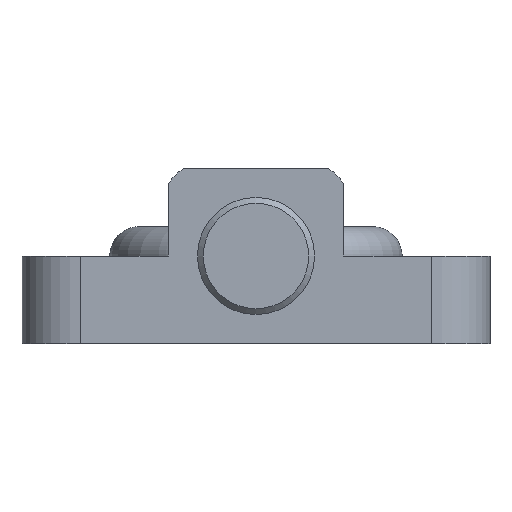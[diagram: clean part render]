
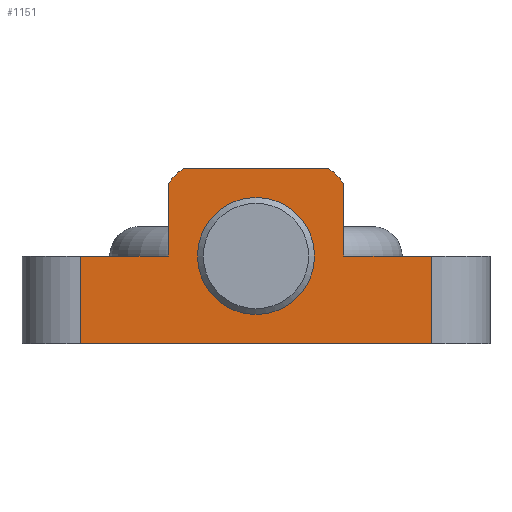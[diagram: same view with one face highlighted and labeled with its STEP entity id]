
A CAD part, front view. The second image highlights one B-rep face of the part: STEP entity #1151.
In plain terms, the highlighted planar face has unit normal (0, -1, 0).
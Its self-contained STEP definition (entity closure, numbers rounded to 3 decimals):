
#50=LINE('',#1829,#150);
#53=LINE('',#1839,#153);
#57=LINE('',#1851,#157);
#64=LINE('',#1873,#164);
#72=LINE('',#1901,#172);
#73=LINE('',#1903,#173);
#74=LINE('',#1904,#174);
#75=LINE('',#1906,#175);
#150=VECTOR('',#1440,1000.);
#153=VECTOR('',#1451,1000.);
#157=VECTOR('',#1463,1000.);
#164=VECTOR('',#1480,1000.);
#172=VECTOR('',#1504,1000.);
#173=VECTOR('',#1505,1000.);
#174=VECTOR('',#1506,1000.);
#175=VECTOR('',#1507,1000.);
#249=PLANE('',#1278);
#422=ORIENTED_EDGE('',*,*,#675,.F.);
#423=ORIENTED_EDGE('',*,*,#640,.F.);
#424=ORIENTED_EDGE('',*,*,#676,.F.);
#425=ORIENTED_EDGE('',*,*,#677,.T.);
#426=ORIENTED_EDGE('',*,*,#662,.F.);
#427=ORIENTED_EDGE('',*,*,#678,.F.);
#428=ORIENTED_EDGE('',*,*,#679,.F.);
#429=ORIENTED_EDGE('',*,*,#651,.F.);
#430=ORIENTED_EDGE('',*,*,#648,.F.);
#431=ORIENTED_EDGE('',*,*,#645,.F.);
#432=ORIENTED_EDGE('',*,*,#642,.F.);
#640=EDGE_CURVE('',#783,#784,#50,.T.);
#642=EDGE_CURVE('',#784,#785,#873,.T.);
#645=EDGE_CURVE('',#785,#787,#53,.T.);
#648=EDGE_CURVE('',#787,#789,#875,.T.);
#651=EDGE_CURVE('',#789,#791,#57,.T.);
#662=EDGE_CURVE('',#801,#802,#64,.T.);
#675=EDGE_CURVE('',#812,#812,#886,.T.);
#676=EDGE_CURVE('',#813,#783,#72,.T.);
#677=EDGE_CURVE('',#813,#802,#73,.T.);
#678=EDGE_CURVE('',#814,#801,#74,.T.);
#679=EDGE_CURVE('',#791,#814,#75,.T.);
#783=VERTEX_POINT('',#1828);
#784=VERTEX_POINT('',#1830);
#785=VERTEX_POINT('',#1834);
#787=VERTEX_POINT('',#1840);
#789=VERTEX_POINT('',#1846);
#791=VERTEX_POINT('',#1852);
#801=VERTEX_POINT('',#1874);
#802=VERTEX_POINT('',#1875);
#812=VERTEX_POINT('',#1900);
#813=VERTEX_POINT('',#1902);
#814=VERTEX_POINT('',#1905);
#873=CIRCLE('',#1260,19.5);
#875=CIRCLE('',#1264,19.5);
#886=CIRCLE('',#1279,10.);
#951=EDGE_LOOP('',(#422));
#952=EDGE_LOOP('',(#423,#424,#425,#426,#427,#428,#429,#430,#431,#432));
#1051=FACE_BOUND('',#951,.T.);
#1052=FACE_BOUND('',#952,.T.);
#1151=ADVANCED_FACE('',(#1051,#1052),#249,.F.);
#1260=AXIS2_PLACEMENT_3D('',#1833,#1444,#1445);
#1264=AXIS2_PLACEMENT_3D('',#1845,#1456,#1457);
#1278=AXIS2_PLACEMENT_3D('',#1898,#1500,#1501);
#1279=AXIS2_PLACEMENT_3D('',#1899,#1502,#1503);
#1440=DIRECTION('',(0.,0.,1.));
#1444=DIRECTION('',(0.,1.,0.));
#1445=DIRECTION('',(1.,0.,0.));
#1451=DIRECTION('',(1.,0.,0.));
#1456=DIRECTION('',(0.,1.,0.));
#1457=DIRECTION('',(1.,0.,0.));
#1463=DIRECTION('',(0.,0.,-1.));
#1480=DIRECTION('',(-1.,0.,0.));
#1500=DIRECTION('',(0.,1.,0.));
#1501=DIRECTION('',(0.,0.,1.));
#1502=DIRECTION('',(0.,-1.,0.));
#1503=DIRECTION('',(0.,0.,-1.));
#1504=DIRECTION('',(1.,0.,0.));
#1505=DIRECTION('',(0.,0.,-1.));
#1506=DIRECTION('',(0.,0.,-1.));
#1507=DIRECTION('',(1.,0.,0.));
#1828=CARTESIAN_POINT('',(-15.,0.,0.));
#1829=CARTESIAN_POINT('',(-15.,0.,-12.46));
#1830=CARTESIAN_POINT('',(-15.,0.,12.46));
#1833=CARTESIAN_POINT('',(0.,0.,0.));
#1834=CARTESIAN_POINT('',(-12.46,0.,15.));
#1839=CARTESIAN_POINT('',(-12.46,0.,15.));
#1840=CARTESIAN_POINT('',(12.46,0.,15.));
#1845=CARTESIAN_POINT('',(0.,0.,0.));
#1846=CARTESIAN_POINT('',(15.,0.,12.46));
#1851=CARTESIAN_POINT('',(15.,0.,12.46));
#1852=CARTESIAN_POINT('',(15.,0.,0.));
#1873=CARTESIAN_POINT('',(12.46,0.,-15.));
#1874=CARTESIAN_POINT('',(30.,0.,-15.));
#1875=CARTESIAN_POINT('',(-30.,0.,-15.));
#1898=CARTESIAN_POINT('',(0.,0.,0.));
#1899=CARTESIAN_POINT('',(0.,0.,0.));
#1900=CARTESIAN_POINT('',(0.,0.,-10.));
#1901=CARTESIAN_POINT('',(-30.,0.,0.));
#1902=CARTESIAN_POINT('',(-30.,0.,0.));
#1903=CARTESIAN_POINT('',(-30.,0.,0.));
#1904=CARTESIAN_POINT('',(30.,0.,0.));
#1905=CARTESIAN_POINT('',(30.,0.,0.));
#1906=CARTESIAN_POINT('',(-30.,0.,0.));
